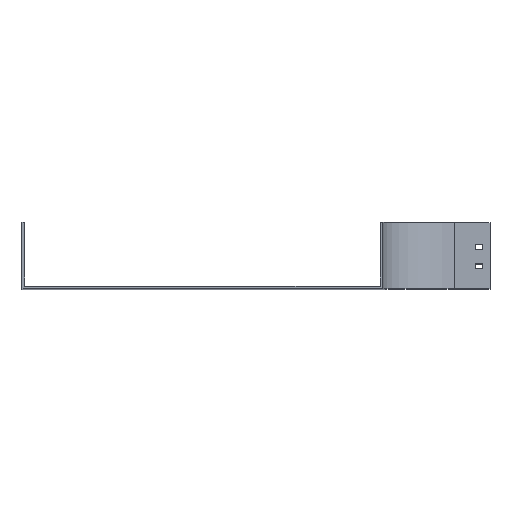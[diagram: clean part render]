
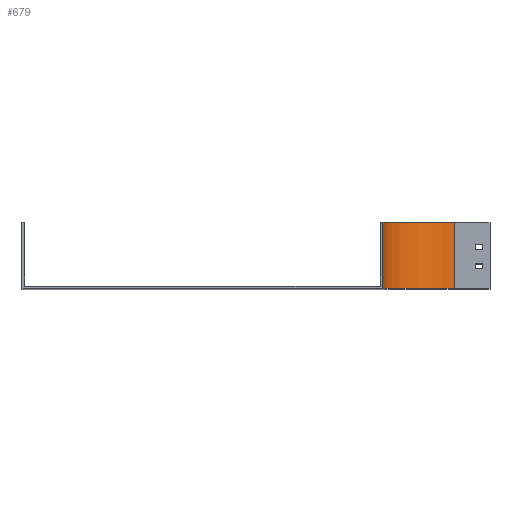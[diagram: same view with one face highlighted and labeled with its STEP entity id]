
A CAD part, top view. The second image highlights one B-rep face of the part: STEP entity #679.
In plain terms, the highlighted cylindrical face has radius 100 mm (diameter 200 mm), a partial arc.
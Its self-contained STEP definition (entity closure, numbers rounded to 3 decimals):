
#4 = FACE_OUTER_BOUND ( 'NONE', #109, .T. ) ;
#25 = CYLINDRICAL_SURFACE ( 'NONE', #284, 100. ) ;
#101 = VECTOR ( 'NONE', #552, 1000. ) ;
#109 = EDGE_LOOP ( 'NONE', ( #1039, #2706, #2107, #2705 ) ) ;
#284 = AXIS2_PLACEMENT_3D ( 'NONE', #1344, #731, #1511 ) ;
#423 = CARTESIAN_POINT ( 'NONE',  ( -100., 0., 0. ) ) ;
#522 = AXIS2_PLACEMENT_3D ( 'NONE', #1982, #946, #2563 ) ;
#552 = DIRECTION ( 'NONE',  ( 0., -1., 0. ) ) ;
#679 = ADVANCED_FACE ( 'NONE', ( #4 ), #25, .F. ) ;
#731 = DIRECTION ( 'NONE',  ( 0., -1., 0. ) ) ;
#772 = VERTEX_POINT ( 'NONE', #1038 ) ;
#946 = DIRECTION ( 'NONE',  ( 0., -1., 0. ) ) ;
#947 = CARTESIAN_POINT ( 'NONE',  ( 0., 92.5, -100. ) ) ;
#993 = CARTESIAN_POINT ( 'NONE',  ( 0., 0., -100. ) ) ;
#1017 = VERTEX_POINT ( 'NONE', #993 ) ;
#1020 = VERTEX_POINT ( 'NONE', #2656 ) ;
#1035 = VERTEX_POINT ( 'NONE', #423 ) ;
#1038 = CARTESIAN_POINT ( 'NONE',  ( 0., 92.5, -100. ) ) ;
#1039 = ORIENTED_EDGE ( 'NONE', *, *, #1516, .T. ) ;
#1054 = DIRECTION ( 'NONE',  ( 0., 0., -1. ) ) ;
#1156 = LINE ( 'NONE', #1987, #2524 ) ;
#1344 = CARTESIAN_POINT ( 'NONE',  ( 0., 92.5, 0. ) ) ;
#1387 = EDGE_CURVE ( 'NONE', #1020, #772, #1457, .T. ) ;
#1457 = CIRCLE ( 'NONE', #522, 100. ) ;
#1511 = DIRECTION ( 'NONE',  ( 0., 0., -1. ) ) ;
#1516 = EDGE_CURVE ( 'NONE', #1035, #1017, #1674, .T. ) ;
#1565 = EDGE_CURVE ( 'NONE', #772, #1017, #2213, .T. ) ;
#1674 = CIRCLE ( 'NONE', #1973, 100. ) ;
#1973 = AXIS2_PLACEMENT_3D ( 'NONE', #2527, #2088, #1054 ) ;
#1982 = CARTESIAN_POINT ( 'NONE',  ( 0., 92.5, 0. ) ) ;
#1987 = CARTESIAN_POINT ( 'NONE',  ( -100., 92.5, 0. ) ) ;
#2088 = DIRECTION ( 'NONE',  ( 0., -1., 0. ) ) ;
#2107 = ORIENTED_EDGE ( 'NONE', *, *, #1387, .F. ) ;
#2213 = LINE ( 'NONE', #947, #101 ) ;
#2524 = VECTOR ( 'NONE', #2628, 1000. ) ;
#2527 = CARTESIAN_POINT ( 'NONE',  ( 0., 0., 0. ) ) ;
#2563 = DIRECTION ( 'NONE',  ( 0., 0., -1. ) ) ;
#2579 = EDGE_CURVE ( 'NONE', #1020, #1035, #1156, .T. ) ;
#2628 = DIRECTION ( 'NONE',  ( 0., -1., 0. ) ) ;
#2656 = CARTESIAN_POINT ( 'NONE',  ( -100., 92.5, 0. ) ) ;
#2705 = ORIENTED_EDGE ( 'NONE', *, *, #2579, .T. ) ;
#2706 = ORIENTED_EDGE ( 'NONE', *, *, #1565, .F. ) ;
